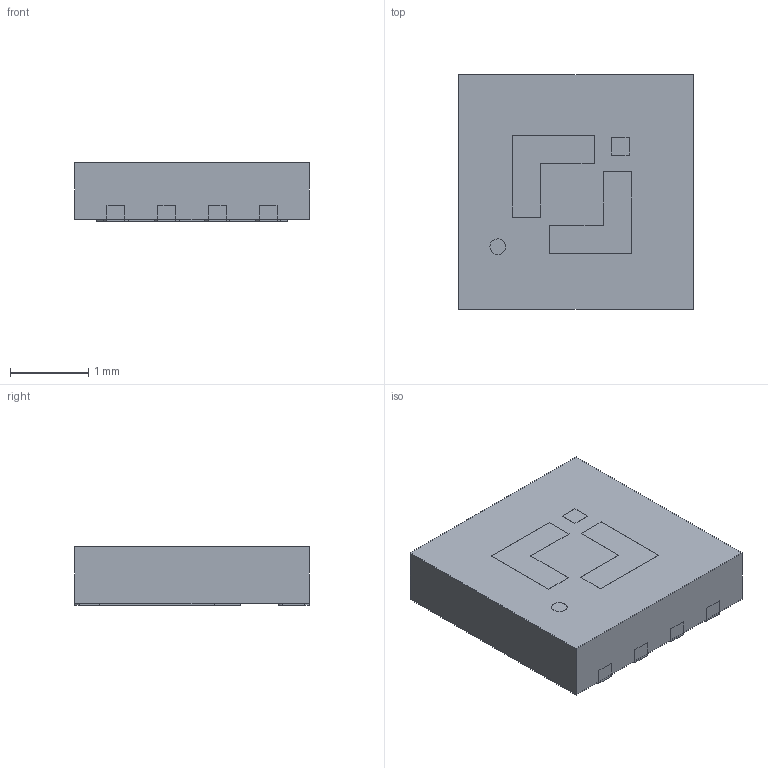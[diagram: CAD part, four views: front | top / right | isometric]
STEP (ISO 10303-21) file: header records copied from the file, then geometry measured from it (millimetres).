
FILE_DESCRIPTION(('HOOPS Exchange Step'),'2;1');
FILE_NAME('C:\Users\18121\AppData\Local\Packages\Shapr3D.Shapr3D_dvv5p1vgwv6mp\TempState\export\temp_export','2025-12-05T10:43:04+08:00',('18121'),('Shapr3D Limited'),'HOOPS Exchange 2025.7','Shapr3D','Authorized');
FILE_SCHEMA( ('AP242_MANAGED_MODEL_BASED_3D_ENGINEERING_MIM_LF {1 0 10303 442 1 1 4}') );
Length unit declared in the file: millimetre
Products named in the file (1): root
Bounding box: 3 x 3 x 0.75 mm (x, y, z)
Surface area: 40.4 mm2
Topology: 6 solids, 6 shells, 114 faces, 296 edges, 198 vertices
Faces by surface type: plane 105, cylinder 9
Full cylindrical faces by diameter (mm): 0.2 x1
Entity records: 3491 total; most frequent: CARTESIAN_POINT 610, ORIENTED_EDGE 592, DIRECTION 548, EDGE_CURVE 296, VECTOR 276, LINE 276, VERTEX_POINT 198, AXIS2_PLACEMENT_3D 136
